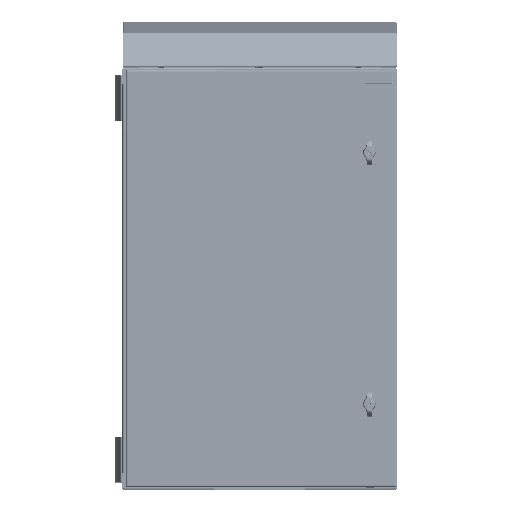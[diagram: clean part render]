
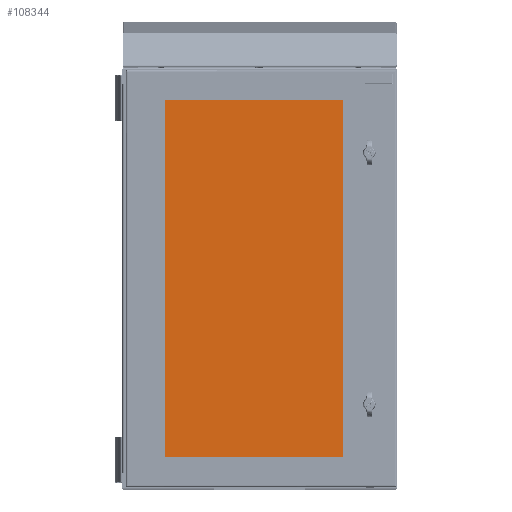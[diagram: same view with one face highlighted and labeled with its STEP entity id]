
A CAD part, top view. The second image highlights one B-rep face of the part: STEP entity #108344.
In plain terms, the highlighted planar face has unit normal (0, 0, 1) as drawn and (0, 0, -1) by its records, which use the part's own axes.
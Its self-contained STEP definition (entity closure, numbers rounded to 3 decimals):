
#42752 = EDGE_LOOP ( 'NONE', ( #119633, #119634, #119635, #119637 ) ) ;
#58272 = CARTESIAN_POINT ( 'NONE',  ( -201.65, 396.85, 0. ) ) ;
#58273 = DIRECTION ( 'NONE',  ( 0., -1., 0. ) ) ;
#58315 = CARTESIAN_POINT ( 'NONE',  ( -201.65, 396.85, 0. ) ) ;
#58316 = DIRECTION ( 'NONE',  ( -1., 0., 0. ) ) ;
#72313 = VERTEX_POINT ( 'NONE', #162014 ) ;
#72314 = VERTEX_POINT ( 'NONE', #162017 ) ;
#72317 = VERTEX_POINT ( 'NONE', #162026 ) ;
#72319 = VERTEX_POINT ( 'NONE', #162032 ) ;
#108344 = ADVANCED_FACE ( 'Face1', ( #284132 ), #290417, .F. ) ;
#119633 = ORIENTED_EDGE ( 'NONE', *, *, #212779, .F. ) ;
#119634 = ORIENTED_EDGE ( 'NONE', *, *, #212835, .F. ) ;
#119635 = ORIENTED_EDGE ( 'NONE', *, *, #188843, .F. ) ;
#119637 = ORIENTED_EDGE ( 'NONE', *, *, #188488, .F. ) ;
#162014 = CARTESIAN_POINT ( 'NONE',  ( -201.65, 396.85, 0. ) ) ;
#162017 = CARTESIAN_POINT ( 'NONE',  ( -201.65, -396.85, 0. ) ) ;
#162026 = CARTESIAN_POINT ( 'NONE',  ( 201.65, -396.85, 0. ) ) ;
#162032 = CARTESIAN_POINT ( 'NONE',  ( 201.65, 396.85, 0. ) ) ;
#188488 = EDGE_CURVE ( 'NONE', #72314, #72317, #195904, .T. ) ;
#188843 = EDGE_CURVE ( 'NONE', #72317, #72319, #196303, .T. ) ;
#195904 = LINE ( 'NONE', #198903, #195912 ) ;
#195912 = VECTOR ( 'NONE', #198911, 1000. ) ;
#196292 = VECTOR ( 'NONE', #215868, 1000. ) ;
#196303 = LINE ( 'NONE', #215856, #196292 ) ;
#198903 = CARTESIAN_POINT ( 'NONE',  ( -201.65, -396.85, 0. ) ) ;
#198911 = DIRECTION ( 'NONE',  ( 1., 0., 0. ) ) ;
#212779 = EDGE_CURVE ( 'NONE', #72313, #72314, #263309, .T. ) ;
#212835 = EDGE_CURVE ( 'NONE', #72319, #72313, #263401, .T. ) ;
#215856 = CARTESIAN_POINT ( 'NONE',  ( 201.65, 396.85, 0. ) ) ;
#215868 = DIRECTION ( 'NONE',  ( 0., 1., 0. ) ) ;
#240686 = AXIS2_PLACEMENT_3D ( 'NONE', #290398, #290438, #290441 ) ;
#263309 = LINE ( 'NONE', #58272, #263338 ) ;
#263338 = VECTOR ( 'NONE', #58273, 1000. ) ;
#263364 = VECTOR ( 'NONE', #58316, 1000. ) ;
#263401 = LINE ( 'NONE', #58315, #263364 ) ;
#284132 = FACE_OUTER_BOUND ( 'NONE', #42752, .T. ) ;
#290398 = CARTESIAN_POINT ( 'NONE',  ( -201.65, -396.85, 0. ) ) ;
#290417 = PLANE ( 'NONE',  #240686 ) ;
#290438 = DIRECTION ( 'NONE',  ( 0., 0., 1. ) ) ;
#290441 = DIRECTION ( 'NONE',  ( 1., 0., 0. ) ) ;
